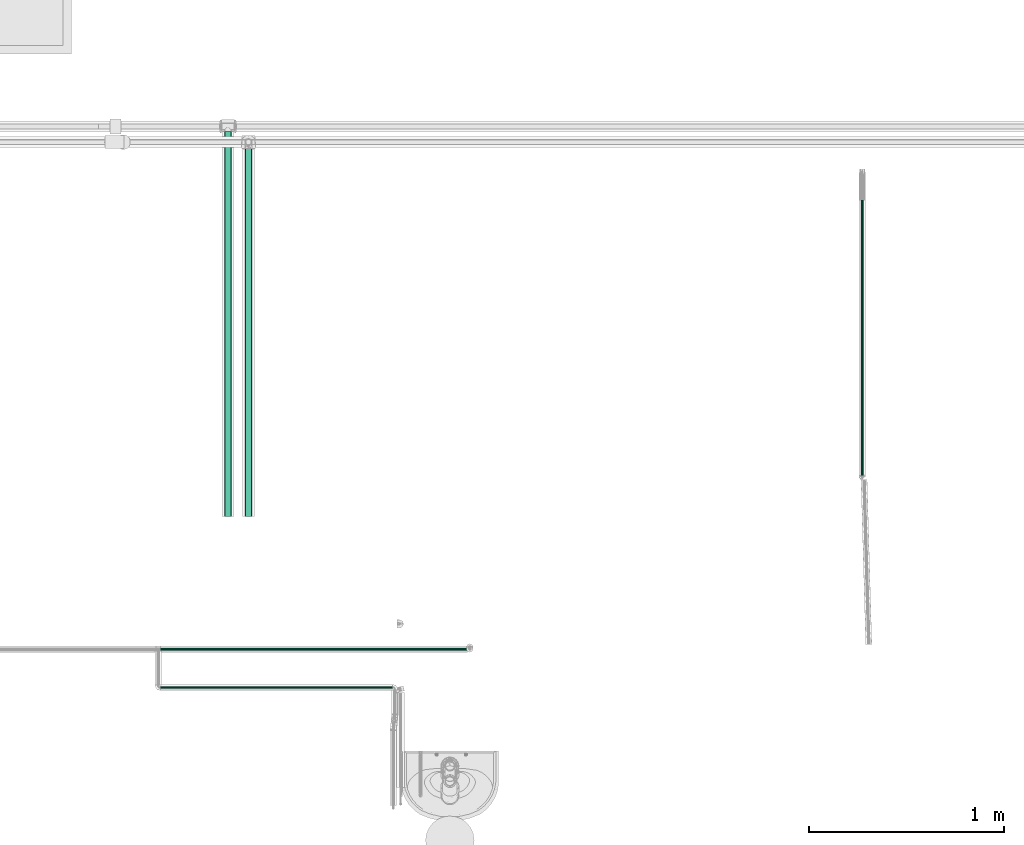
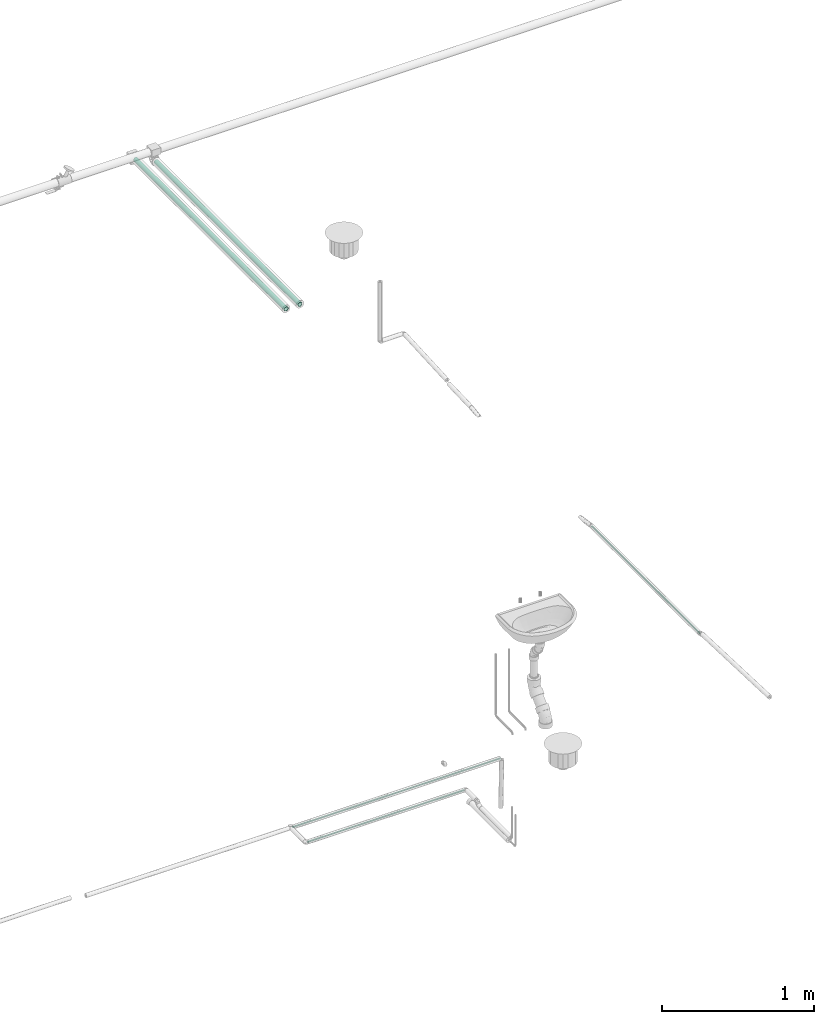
# One storey, part 30 of 108: 5 flow segments.
"""IFC2X3 building model written with IfcOpenShell, lengths in millimetres."""

from ifc_helpers import new_model, entity, si_unit, converted_unit, derived_unit, direction, frame, origin_with_axes, origin_2d_with_axis, place, context, subcontext, project, spatial, hollow_circle, extrude, source, transform, mapped, type_object, element, save


model = new_model("IFC2X3")

# Units and contexts
model_context = context("Model", 3, precision=0.01, world=frame((0.0, 4.29681676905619e-09, 0.0)), true_north=direction((4.01073788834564e-13, 1.0)))
plan_context = context("Plan", 3, precision=0.01, world=frame((0.0, 4.29681676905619e-09, 0.0)), true_north=direction((4.01073788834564e-13, 1.0)))
body_context = subcontext(model_context, "Body", "Model", "MODEL_VIEW")
ifc_project = project(units=[converted_unit("PLANEANGLEUNIT", "DEGREE", entity("IfcPositiveLengthMeasure", 0.0174532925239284), si_unit("PLANEANGLEUNIT", "RADIAN"), dimensions=[0, 0, 0, 0, 0, 0, 0]), si_unit("AREAUNIT", "SQUARE_METRE"), si_unit("LENGTHUNIT", "METRE", prefix="MILLI"), si_unit("MASSUNIT", "GRAM", prefix="KILO"), si_unit("POWERUNIT", "WATT"), si_unit("PRESSUREUNIT", "PASCAL", prefix="KILO"), si_unit("FORCEUNIT", "NEWTON", prefix="KILO"), si_unit("ELECTRICVOLTAGEUNIT", "VOLT"), si_unit("ELECTRICCURRENTUNIT", "AMPERE"), si_unit("THERMODYNAMICTEMPERATUREUNIT", "DEGREE_CELSIUS"), si_unit("TIMEUNIT", "SECOND"), si_unit("VOLUMEUNIT", "CUBIC_METRE"), derived_unit("LINEARVELOCITYUNIT", [(si_unit("LENGTHUNIT", "METRE"), 1), (si_unit("TIMEUNIT", "SECOND"), -1)]), derived_unit("VOLUMETRICFLOWRATEUNIT", [(si_unit("VOLUMEUNIT", "CUBIC_METRE"), 1), (si_unit("TIMEUNIT", "SECOND"), -1)]), derived_unit("THERMALTRANSMITTANCEUNIT", [(si_unit("POWERUNIT", "WATT"), 1), (si_unit("THERMODYNAMICTEMPERATUREUNIT", "KELVIN"), -1), (si_unit("AREAUNIT", "SQUARE_METRE"), -1)]), derived_unit("SOUNDPRESSUREUNIT", [(si_unit("PRESSUREUNIT", "PASCAL"), 1)])], contexts=[model_context, plan_context])

# Site, building, storey
site_placement = place(None, frame((0.0, -4.29681676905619e-09, 0.0), z_axis=(0.0, 0.0, 1.0), x_axis=(1.0, 0.0, 0.0)))
site = spatial("IfcSite", under=ifc_project, at=site_placement, CompositionType="ELEMENT")
building_placement = place(site_placement, frame((0.0, 4.29681676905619e-09, 0.0), z_axis=(0.0, 0.0, 1.0), x_axis=(1.0, 0.0, 0.0)))
building = spatial("IfcBuilding", under=site, at=building_placement, Name="mc-building", CompositionType="ELEMENT")
storey_placement = place(building_placement, frame((0.0, 0.0, 210200.0), z_axis=(0.0, 0.0, 1.0), x_axis=(1.0, 0.0, 0.0)))
storey = spatial("IfcBuildingStorey", under=building, at=storey_placement, Name="Nivå F - 0,7 m", CompositionType="ELEMENT", Elevation=210200.0)

# Flow segments
pipe_segment_type_1 = type_object("IfcPipeSegmentType", Name="Stålrør normaltykke", PredefinedType="RIGIDSEGMENT")
shared_shape_1 = source(origin_with_axes(), body_context, "Body", "SweptSolid", [
    extrude(hollow_circle(Radius=16.9, WallThickness=2.0, at=origin_2d_with_axis()), frame((0.0, 0.0, 0.0), z_axis=(1.0, 0.0, 0.0), x_axis=(0.0, 1.0, 0.0)), (0.0, 0.0, 1.0), 1974.7),
])
flow_segment_1_placement = place(storey_placement, frame((338272.06087, 463958.12358, 2880.0), z_axis=(0.0, 0.0, 1.0), x_axis=(0.0, -1.0, 0.0)))
element("IfcFlowSegment", 1, at=flow_segment_1_placement, inside=storey, type_object=pipe_segment_type_1, Name="Stålrør normaltykke", context=body_context, shape_type="MappedRepresentation", body=[
    mapped(shared_shape_1, transform((0.0, 0.0, 0.0), scale=1.0)),
])
shared_shape_2 = source(origin_with_axes(), body_context, "Body", "SweptSolid", [
    extrude(hollow_circle(Radius=16.9, WallThickness=2.0, at=origin_2d_with_axis()), frame((0.0, 0.0, 0.0), z_axis=(1.0, 0.0, 0.0), x_axis=(0.0, 1.0, 0.0)), (0.0, 0.0, 1.0), 1886.2),
])
flow_segment_2_placement = place(storey_placement, frame((338377.15694, 461983.47395, 2880.0), z_axis=(0.0, 0.0, 1.0), x_axis=(0.0, 1.0, 0.0)))
element("IfcFlowSegment", 2, at=flow_segment_2_placement, inside=storey, type_object=pipe_segment_type_1, Name="Stålrør normaltykke", context=body_context, shape_type="MappedRepresentation", body=[
    mapped(shared_shape_2, transform((0.0, 0.0, 0.0), scale=1.0)),
])
pipe_segment_type_2 = type_object("IfcPipeSegmentType", Name="Kobberrør", PredefinedType="RIGIDSEGMENT")
shared_shape_3 = source(origin_with_axes(), body_context, "Body", "SweptSolid", [
    extrude(hollow_circle(Radius=6.0, WallThickness=2.0, at=origin_2d_with_axis()), frame((0.0, 0.0, 0.0), z_axis=(1.0, 0.0, 0.0), x_axis=(0.0, 1.0, 0.0)), (0.0, 0.0, 1.0), 1573.5),
])
flow_segment_3_placement = place(storey_placement, frame((337926.44674, 461303.19294, -735.809999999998), z_axis=(9.9999999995e-06, 0.0, 0.99999999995), x_axis=(0.99999999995, 0.0, -9.9999999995e-06)))
element("IfcFlowSegment", 3, at=flow_segment_3_placement, inside=storey, type_object=pipe_segment_type_2, Name="Kobberrør", context=body_context, shape_type="MappedRepresentation", body=[
    mapped(shared_shape_3, transform((0.0, 0.0, 0.0), scale=1.0)),
])
shared_shape_4 = source(origin_with_axes(), body_context, "Body", "SweptSolid", [
    extrude(hollow_circle(Radius=6.0, WallThickness=2.0, at=origin_2d_with_axis()), frame((0.0, 0.0, 0.0), z_axis=(1.0, 0.0, 0.0), x_axis=(0.0, 1.0, 0.0)), (0.0, 0.0, 1.0), 1188.5),
])
flow_segment_4_placement = place(storey_placement, frame((337926.44674, 461107.00941, -735.809999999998), z_axis=(0.0, 0.0, 1.0), x_axis=(1.0, 0.0, 0.0)))
element("IfcFlowSegment", 4, at=flow_segment_4_placement, inside=storey, type_object=pipe_segment_type_2, Name="Kobberrør", context=body_context, shape_type="MappedRepresentation", body=[
    mapped(shared_shape_4, transform((0.0, 0.0, 0.0), scale=1.0)),
])
shared_shape_5 = source(origin_with_axes(), body_context, "Body", "SweptSolid", [
    extrude(hollow_circle(Radius=6.0, WallThickness=2.0, at=origin_2d_with_axis()), frame((0.0, 0.0, 0.0), z_axis=(1.0, 0.0, 0.0), x_axis=(0.0, 1.0, 0.0)), (0.0, 0.0, 1.0), 1413.1),
])
flow_segment_5_placement = place(storey_placement, frame((341524.45116, 463606.39625, -981.678400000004), z_axis=(0.0, 0.0, 1.0), x_axis=(0.0, -1.0, 0.0)))
element("IfcFlowSegment", 5, at=flow_segment_5_placement, inside=storey, type_object=pipe_segment_type_2, Name="Kobberrør", context=body_context, shape_type="MappedRepresentation", body=[
    mapped(shared_shape_5, transform((0.0, 0.0, 0.0), scale=1.0)),
])

save(model, "model.ifc")
